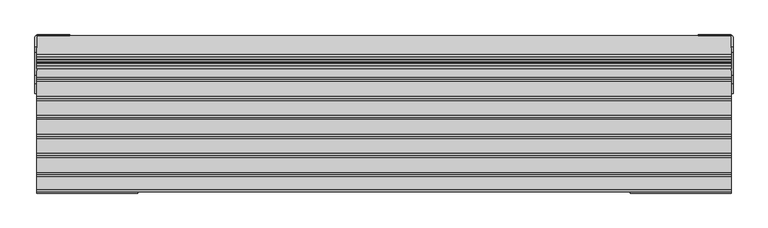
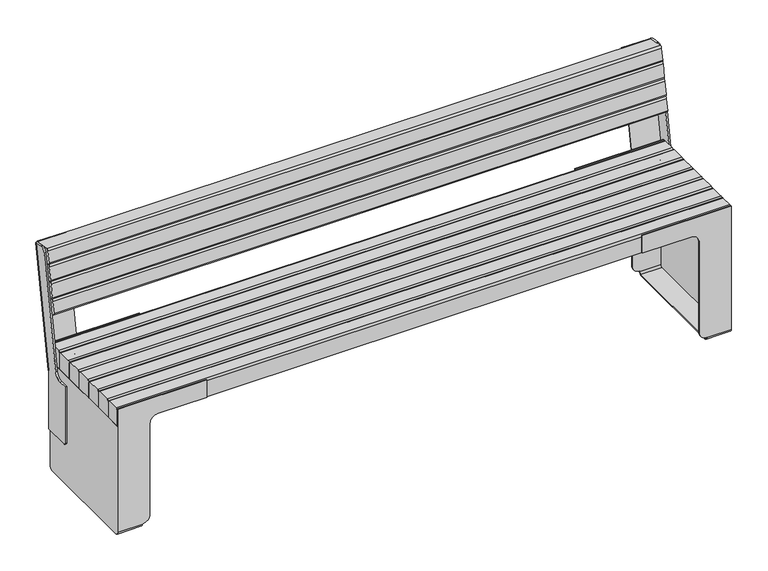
"""IFC4 building model written with IfcOpenShell, lengths in millimetres: furniture geometry, Roros Produkter - Nobel - Bench - 32685 : Roros Produkter - Nobel - Bench - 32685."""

from ifc_helpers import new_model, si_unit, point, frame, frame_2d, origin, place, context, project, spatial, polyline, circle_curve, trimmed, segment, composite_curve, outline, extrude, source, transform, mapped, element, save
from ifc_brep_helpers import plane_surface, cylinder_surface, revolved_surface, advanced_brep


def furniture_69ef98cd(model_context):
    return source(origin(), model_context, "Body", "SolidModel", [
        advanced_brep(
        [(-1000.0000075, 101.4999907, 140.0000029), (-1000.0000075, 96.4999907, 145.0000029), (-1006.0002228, 96.4999907, 145.0000029), (-1006.0002228, 101.4999907, 140.0000029), (-1000.0000075, 188.5000074, 140.0000029), (-1006.0002228, 188.5000074, 140.0000029), (-1000.0000075, 188.5000074, 340.6999889), (-1006.0002228, 188.5000074, 340.6999889), (-1000.0000075, 96.4999907, 339.4750637), (-1006.0002228, 96.4999907, 339.4750637), (-1000.0000075, 124.6585977, 339.4750637), (-1006.0002228, 124.6585977, 339.4750637), (-1000.0000075, 149.2770573, 360.1240357), (-1006.0002228, 149.2770573, 360.1240357), (-1000.0000075, 263.560543, 737.5956028), (-906.000222, 263.560543, 737.5956028), (-906.000222, 266.5149655, 737.0746583), (-998.0002228, 266.5149655, 737.0746583), (-1006.0002228, 258.6365035, 738.4638441), (-1006.0002228, 232.1946644, 743.1262551), (-1000.0000075, 232.1946644, 743.1262551), (-998.0002228, 196.3784284, 339.3107044), (-906.000222, 196.3784284, 339.3107044), (-906.000222, 193.4240059, 339.8316489), (-1000.0000075, 193.4240059, 339.8316489), (-1000.0000075, 214.8188652, 730.9647557), (-1006.0002228, 214.8188652, 730.9647557)],
        [
            (0, 1, circle_curve(frame((-1000.0000075, 101.4999907, 145.0000029), z_axis=(-1.0, 0.0, 0.0), x_axis=(0.0, -1.0, 0.0)), 5.0)),
            (1, 2),
            (2, 3, circle_curve(frame((-1006.0002228, 101.4999907, 145.0000029), z_axis=(1.0, 0.0, 0.0), x_axis=(0.0, -1.0, 0.0)), 5.0)),
            (3, 0),
            (4, 0),
            (3, 5),
            (5, 4),
            (6, 4),
            (5, 7),
            (7, 6),
            (1, 8),
            (8, 9),
            (9, 2),
            (10, 11),
            (11, 9),
            (8, 10),
            (12, 13),
            (13, 11, circle_curve(frame((-1006.0002228, 124.6585977, 364.4750637), z_axis=(-1.0, 0.0, 0.0), x_axis=(0.0, -1.0, 0.0)), 25.0)),
            (10, 12, circle_curve(frame((-1000.0000075, 124.6585977, 364.4750637), z_axis=(1.0, 0.0, 0.0), x_axis=(0.0, -1.0, 0.0)), 25.0)),
            (14, 15),
            (15, 16),
            (16, 17),
            (17, 18, circle_curve(frame((-998.0002228, 258.6365035, 738.4638441), z_axis=(0.0, 0.1736482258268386, 0.9848077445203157), x_axis=(0.0, -0.9848077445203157, 0.1736482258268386)), 8.0)),
            (18, 19),
            (19, 20),
            (20, 14),
            (7, 21, circle_curve(frame((-998.0002228, 188.4999664, 340.6998902), z_axis=(0.0, -0.1736482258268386, -0.9848077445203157), x_axis=(0.0, -0.9848077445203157, 0.1736482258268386)), 8.0)),
            (21, 22),
            (22, 23),
            (23, 24),
            (24, 6),
            (24, 14),
            (20, 25, circle_curve(frame((-1000.0000075, 229.589941, 728.3541389), z_axis=(1.0, 0.0, 0.0), x_axis=(0.0, -1.0, 0.0)), 15.0)),
            (25, 12),
            (23, 15),
            (22, 16),
            (21, 17),
            (7, 18),
            (13, 26),
            (26, 19, circle_curve(frame((-1006.0002228, 229.589941, 728.3541389), z_axis=(-1.0, 0.0, 0.0), x_axis=(0.0, -1.0, 0.0)), 15.0)),
            (25, 26),
        ],
        [
            cylinder_surface(frame((-1006.0002228, 101.4999907, 145.0000029), z_axis=(1.0, 0.0, 0.0), x_axis=(0.0, -1.0, 0.0)), 5.0),
            plane_surface(frame((-1000.0000075, 101.4999907, 140.0000029), z_axis=(0.0, 0.0, -1.0), x_axis=(-1.0, 0.0, 0.0))),
            plane_surface(frame((-1000.0000075, 188.5000074, 140.0000029), z_axis=(0.0, 1.0, 0.0), x_axis=(-1.0, 0.0, 0.0))),
            plane_surface(frame((-1000.0000075, 96.4999907, 407.4449881), z_axis=(0.0, -1.0, 0.0), x_axis=(-1.0, 0.0, 0.0))),
            plane_surface(frame((-971.8980186, 84.6585977, 339.4750637), z_axis=(0.0, 0.0, 1.0), x_axis=(-1.0, 0.0, 0.0))),
            revolved_surface(polyline([(-1000.0000075, 99.6585977, 364.4750637), (-1006.0002228, 99.6585977, 364.4750637)]), (-1053.6124158, 124.6585977, 364.4750637), (1.0, 0.0, 0.0)),
            plane_surface(frame((-1000.0000075, 263.560543, 737.5956028), z_axis=(0.0, 0.1736482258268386, 0.9848077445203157), x_axis=(0.0, 0.9848077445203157, -0.1736482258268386))),
            plane_surface(frame((-1000.0000075, 193.4240059, 339.8316489), z_axis=(0.0, -0.1736482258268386, -0.9848077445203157), x_axis=(0.0, -0.9848077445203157, 0.1736482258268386))),
            plane_surface(frame((-1000.0000075, 170.4751739, 754.0090696), z_axis=(1.0000000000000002, 0.0, 0.0), x_axis=(0.0, -0.17364822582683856, -0.9848077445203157))),
            plane_surface(frame((-1000.0000075, 263.560543, 737.5956028), z_axis=(0.0, -0.9848077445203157, 0.1736482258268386), x_axis=(0.0, -0.1736482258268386, -0.9848077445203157))),
            plane_surface(frame((-906.000222, 263.560543, 737.5956028), z_axis=(1.0000000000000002, 0.0, 0.0), x_axis=(0.0, -0.1736482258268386, -0.9848077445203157))),
            plane_surface(frame((-906.000222, 266.5149655, 737.0746583), z_axis=(0.0, 0.9848077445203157, -0.17364822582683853), x_axis=(0.0, -0.17364822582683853, -0.9848077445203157))),
            cylinder_surface(frame((-998.0002228, 188.4999664, 340.6998902), z_axis=(0.0, 0.1736482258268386, 0.9848077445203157), x_axis=(0.0, -0.9848077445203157, 0.1736482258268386)), 8.0),
            plane_surface(frame((-1006.0002228, 258.6365035, 738.4638441), z_axis=(-1.0000000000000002, 0.0, 0.0), x_axis=(0.0, -0.1736482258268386, -0.9848077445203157))),
            plane_surface(frame((-954.3666656, 213.8993, 725.7617833), z_axis=(0.0, -0.9847383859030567, 0.17404111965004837), x_axis=(-1.0, 0.0, 0.0))),
            cylinder_surface(frame((-1047.2448882, 229.589941, 728.3541389), z_axis=(-1.0, 0.0, 0.0), x_axis=(0.0, -1.0, 0.0)), 15.0),
        ],
        [
            (0, [[1, 2, 3, 4]]),
            (1, [[5, -4, 6, 7]]),
            (2, [[8, -7, 9, 10]]),
            (3, [[-2, 11, 12, 13]]),
            (4, [[14, 15, -12, 16]]),
            (5, [[17, 18, -14, 19]]),
            (6, [[20, 21, 22, 23, 24, 25, 26]]),
            (7, [[27, 28, 29, 30, 31, -10]]),
            (8, [[32, -26, 33, 34, -19, -16, -11, -1, -5, -8, -31]]),
            (9, [[-20, -32, -30, 35]]),
            (10, [[-21, -35, -29, 36]]),
            (11, [[-22, -36, -28, 37]]),
            (12, [[-23, -37, -27, 38]]),
            (13, [[-38, -9, -6, -3, -13, -15, -18, 39, 40, -24]]),
            (14, [[41, -39, -17, -34]]),
            (15, [[-41, -33, -25, -40]]),
        ],
    ),
        advanced_brep(
        [(1000.0000075, 96.4999907, 145.0000029), (1000.0000075, 101.4999907, 140.0000029), (1006.0002228, 101.4999907, 140.0000029), (1006.0002228, 96.4999907, 145.0000029), (1000.0000075, 188.5000074, 140.0000029), (1006.0002228, 188.5000074, 140.0000029), (1000.0000075, 188.5000074, 340.6999889), (1006.0002228, 188.5000074, 340.699883), (1006.0002228, 96.4999907, 339.4750637), (1000.0000075, 96.4999907, 339.4750637), (1006.0002228, 124.6585977, 339.4750637), (1000.0000075, 124.6585977, 339.4750637), (1006.0002228, 149.2770573, 360.1240357), (1000.0000075, 149.2770573, 360.1240357), (1006.0002228, 258.6365035, 738.4638441), (998.0002228, 266.5149655, 737.0746583), (906.000222, 266.5149655, 737.0746583), (906.000222, 263.560543, 737.5956028), (1000.0000075, 263.560543, 737.5956028), (1000.0000075, 232.1946644, 743.1262551), (1006.0002228, 232.1946644, 743.1262551), (1000.0000075, 193.4240059, 339.8316489), (906.000222, 193.4240059, 339.8316489), (906.000222, 196.3784284, 339.3107044), (998.0002228, 196.3784284, 339.3107044), (1000.0000075, 214.8188652, 730.9647557), (1006.0002228, 214.8188652, 730.9647557)],
        [
            (0, 1, circle_curve(frame((1000.0000075, 101.4999907, 145.0000029), z_axis=(1.0, 0.0, 0.0), x_axis=(0.0, -1.0, 0.0)), 5.0)),
            (1, 2),
            (2, 3, circle_curve(frame((1006.0002228, 101.4999907, 145.0000029), z_axis=(-1.0, 0.0, 0.0), x_axis=(0.0, -1.0, 0.0)), 5.0)),
            (3, 0),
            (1, 4),
            (4, 5),
            (5, 2),
            (4, 6),
            (6, 7),
            (7, 5),
            (3, 8),
            (8, 9),
            (9, 0),
            (10, 11),
            (11, 9),
            (8, 10),
            (10, 12, circle_curve(frame((1006.0002228, 124.6585977, 364.4750637), z_axis=(1.0, 0.0, 0.0), x_axis=(0.0, -1.0, 0.0)), 25.0)),
            (12, 13),
            (13, 11, circle_curve(frame((1000.0000075, 124.6585977, 364.4750637), z_axis=(-1.0, 0.0, 0.0), x_axis=(0.0, -1.0, 0.0)), 25.0)),
            (14, 15, circle_curve(frame((998.0002228, 258.6365035, 738.4638441), z_axis=(0.0, 0.1736482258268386, 0.9848077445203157), x_axis=(0.0, -0.9848077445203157, 0.1736482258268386)), 8.0)),
            (15, 16),
            (16, 17),
            (17, 18),
            (18, 19),
            (19, 20),
            (20, 14),
            (21, 22),
            (22, 23),
            (23, 24),
            (24, 7, circle_curve(frame((998.0002228, 188.4999664, 340.6998902), z_axis=(0.0, -0.1736482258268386, -0.9848077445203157), x_axis=(0.0, -0.9848077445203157, 0.1736482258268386)), 8.0)),
            (6, 21),
            (18, 21),
            (13, 25),
            (25, 19, circle_curve(frame((1000.0000075, 229.589941, 728.3541389), z_axis=(-1.0, 0.0, 0.0), x_axis=(0.0, -1.0, 0.0)), 15.0)),
            (17, 22),
            (16, 23),
            (15, 24),
            (14, 7),
            (20, 26, circle_curve(frame((1006.0002228, 229.589941, 728.3541389), z_axis=(1.0, 0.0, 0.0), x_axis=(0.0, -1.0, 0.0)), 15.0)),
            (26, 12),
            (26, 25),
        ],
        [
            cylinder_surface(frame((1006.0002228, 101.4999907, 145.0000029), z_axis=(-1.0, 0.0, 0.0), x_axis=(0.0, -1.0, 0.0)), 5.0),
            plane_surface(frame((1000.0000075, 188.5000074, 140.0000029), z_axis=(0.0, 0.0, -1.0), x_axis=(1.0, 0.0, 0.0))),
            plane_surface(frame((1000.0000075, 188.5000074, 340.6999889), z_axis=(0.0, 1.0, 0.0), x_axis=(1.0, 0.0, 0.0))),
            plane_surface(frame((1000.0000075, 96.4999907, 145.0000029), z_axis=(0.0, -1.0, 0.0), x_axis=(1.0, 0.0, 0.0))),
            plane_surface(frame((971.8980186, 124.6585977, 339.4750637), z_axis=(0.0, 0.0, 1.0), x_axis=(1.0, 0.0, 0.0))),
            revolved_surface(polyline([(1000.0000075, 99.6585977, 364.4750637), (1006.0002228, 99.6585977, 364.4750637)]), (1053.6124158, 124.6585977, 364.4750637), (-1.0, 0.0, 0.0)),
            plane_surface(frame((1006.0002228, 170.4751739, 754.0090696), z_axis=(0.0, 0.1736482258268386, 0.9848077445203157), x_axis=(1.0, 0.0, 0.0))),
            plane_surface(frame((1006.0002228, 100.3386368, 356.2451157), z_axis=(0.0, -0.1736482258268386, -0.9848077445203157), x_axis=(-1.0, 0.0, 0.0))),
            plane_surface(frame((1000.0000075, 263.560543, 737.5956028), z_axis=(-1.0000000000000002, 0.0, 0.0), x_axis=(0.0, -0.1736482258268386, -0.9848077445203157))),
            plane_surface(frame((906.000222, 263.560543, 737.5956028), z_axis=(0.0, -0.9848077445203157, 0.1736482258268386), x_axis=(0.0, -0.1736482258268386, -0.9848077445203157))),
            plane_surface(frame((906.000222, 266.5149655, 737.0746583), z_axis=(-1.0000000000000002, 0.0, 0.0), x_axis=(0.0, -0.17364822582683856, -0.9848077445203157))),
            plane_surface(frame((998.0002228, 266.5149655, 737.0746583), z_axis=(0.0, 0.9848077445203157, -0.17364822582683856), x_axis=(0.0, -0.17364822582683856, -0.9848077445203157))),
            cylinder_surface(frame((998.0002228, 188.4999664, 340.6998902), z_axis=(0.0, 0.1736482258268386, 0.9848077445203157), x_axis=(0.0, -0.9848077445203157, 0.1736482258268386)), 8.0),
            plane_surface(frame((1006.0002228, 170.4751739, 754.0090696), z_axis=(1.0000000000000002, 0.0, 0.0), x_axis=(0.0, -0.17364822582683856, -0.9848077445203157))),
            plane_surface(frame((954.3666656, 214.8188652, 730.9647557), z_axis=(0.0, -0.9847383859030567, 0.17404111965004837), x_axis=(1.0, 0.0, 0.0))),
            cylinder_surface(frame((1032.9051927, 229.589941, 728.3541389), z_axis=(1.0, 0.0, 0.0), x_axis=(0.0, -1.0, 0.0)), 15.0),
        ],
        [
            (0, [[1, 2, 3, 4]]),
            (1, [[5, 6, 7, -2]]),
            (2, [[8, 9, 10, -6]]),
            (3, [[-4, 11, 12, 13]]),
            (4, [[14, 15, -12, 16]]),
            (5, [[-14, 17, 18, 19]]),
            (6, [[20, 21, 22, 23, 24, 25, 26]]),
            (7, [[27, 28, 29, 30, -9, 31]]),
            (8, [[32, -31, -8, -5, -1, -13, -15, -19, 33, 34, -24]]),
            (9, [[-23, 35, -27, -32]]),
            (10, [[-22, 36, -28, -35]]),
            (11, [[-21, 37, -29, -36]]),
            (12, [[-20, 38, -30, -37]]),
            (13, [[-38, -26, 39, 40, -17, -16, -11, -3, -7, -10]]),
            (14, [[41, -33, -18, -40]]),
            (15, [[-41, -39, -25, -34]]),
        ],
    ),
        extrude(outline(composite_curve([segment(polyline([(235.7768278, 580.026369), (182.5972245, 589.4033706)]), True, "CONTINUOUS"), segment(trimmed(circle_curve(frame_2d((183.6391139, 595.312217)), 6.0), [point((182.5972245, 589.4033706))], [point((177.7302672, 596.354105))], False, "CARTESIAN"), True, "CONTINUOUS"), segment(polyline([(177.7302672, 596.354105), (185.197131, 638.7008403)]), True, "CONTINUOUS"), segment(trimmed(circle_curve(frame_2d((191.1059777, 637.6589523)), 6.0), [point((185.197131, 638.7008403))], [point((192.1478671, 643.5677988))], False, "CARTESIAN"), True, "CONTINUOUS"), segment(polyline([(192.1478671, 643.5677988), (245.3274803, 634.1907954), (235.7768278, 580.026369)]), True, "CONTINUOUS")], self_intersect=False)), frame((-1000.0000075, 0.0, 0.0), z_axis=(1.0, 0.0, 0.0), x_axis=(0.0, 1.0, 0.0)), (0.0, 0.0, 1.0), 2000.0000153),
        extrude(outline(composite_curve([segment(polyline([(254.8781328, 688.3552219), (201.6985295, 697.7322234)]), True, "CONTINUOUS"), segment(trimmed(circle_curve(frame_2d((202.7404189, 703.6410699)), 6.0), [point((201.6985295, 697.7322234))], [point((196.8315722, 704.6829579))], False, "CARTESIAN"), True, "CONTINUOUS"), segment(polyline([(196.8315722, 704.6829579), (203.4301949, 742.1056474)]), True, "CONTINUOUS"), segment(trimmed(circle_curve(frame_2d((209.3390416, 741.0637595)), 6.0), [point((203.4301949, 742.1056474))], [point((210.3809309, 746.9726059))], False, "CARTESIAN"), True, "CONTINUOUS"), segment(polyline([(210.3809309, 746.9726059), (263.560543, 737.5956028), (254.8781328, 688.3552219)]), True, "CONTINUOUS")], self_intersect=False)), frame((-1000.0000075, 0.0, 0.0), z_axis=(1.0, 0.0, 0.0), x_axis=(0.0, 1.0, 0.0)), (0.0, 0.0, 1.0), 2000.0000153),
        extrude(outline(composite_curve([segment(polyline([(227.0944176, 530.785988), (173.9148132, 540.1629898)]), True, "CONTINUOUS"), segment(trimmed(circle_curve(frame_2d((174.9567025, 546.0718363)), 6.0), [point((173.9148132, 540.1629898))], [point((169.0478558, 547.1137242))], False, "CARTESIAN"), True, "CONTINUOUS"), segment(polyline([(169.0478558, 547.1137242), (175.6464785, 584.5364138)]), True, "CONTINUOUS"), segment(trimmed(circle_curve(frame_2d((181.5553252, 583.4945259)), 6.0), [point((175.6464785, 584.5364138))], [point((182.5972146, 589.4033723))], False, "CARTESIAN"), True, "CONTINUOUS"), segment(polyline([(182.5972146, 589.4033723), (235.7768278, 580.026369), (227.0944176, 530.785988)]), True, "CONTINUOUS")], self_intersect=False)), frame((-1000.0000075, 0.0, 0.0), z_axis=(1.0, 0.0, 0.0), x_axis=(0.0, 1.0, 0.0)), (0.0, 0.0, 1.0), 2000.0000153),
        extrude(outline(composite_curve([segment(polyline([(245.3274803, 634.1907954), (192.1478308, 643.5678051)]), True, "CONTINUOUS"), segment(trimmed(circle_curve(frame_2d((193.1897202, 649.4766516)), 6.0), [point((192.1478308, 643.5678051))], [point((187.2808747, 650.5185467))], False, "CARTESIAN"), True, "CONTINUOUS"), segment(polyline([(187.2808747, 650.5185467), (194.7477895, 692.8652729)]), True, "CONTINUOUS"), segment(trimmed(circle_curve(frame_2d((200.656635, 691.8233779)), 6.0), [point((194.7477895, 692.8652729))], [point((201.6985243, 697.7322243))], False, "CARTESIAN"), True, "CONTINUOUS"), segment(polyline([(201.6985243, 697.7322243), (254.8781328, 688.3552219), (245.3274803, 634.1907954)]), True, "CONTINUOUS")], self_intersect=False)), frame((-1000.0000075, 0.0, 0.0), z_axis=(1.0, 0.0, 0.0), x_axis=(0.0, 1.0, 0.0)), (0.0, 0.0, 1.0), 2000.0000153),
        advanced_brep(
        [(920.0000032, 190.4999943, 10.0), (920.0000032, 180.4999943, 0.0), (920.0000032, -180.5000057, 0.0), (920.0000032, -190.5000057, 10.0), (920.0000032, -190.5000057, 11.2), (920.0000032, -187.5000057, 11.2), (920.0000032, -187.5000057, 9.6519473), (920.0000032, -180.5000057, 2.6519473), (920.0000032, 180.4999958, 2.6519473), (920.0000032, 187.4999958, 9.6519473), (920.0000032, 187.4999958, 11.2), (920.0000032, 190.4999943, 11.2), (920.0000032, 180.4999958, 372.0000043), (920.0000032, -180.5000057, 372.0000043), (920.0000032, -187.5000057, 365.0000043), (920.0000032, -187.4999958, 375.0000029), (920.0000032, 187.4999958, 375.0000029), (920.0000032, 187.4999958, 365.0000043), (1000.0000075, 190.5000057, 435.0000106), (1000.0000075, 187.4999958, 435.0000106), (1000.0000075, 187.4999958, 375.0000029), (1000.0000075, -187.4999958, 375.0000029), (1000.0000075, -187.4999958, 435.0000106), (1000.0000075, -190.5000057, 435.0000106), (1000.0000075, -190.5000057, 10.0), (1000.0000075, -180.5000057, 0.0), (1000.0000075, 180.4999943, 0.0), (1000.0000075, 190.4999943, 10.0), (895.000003, 190.4999943, 36.2000001), (895.000003, 190.4999943, 350.0000029), (870.000003, 190.4999943, 375.0000029), (710.0000125, 190.4999943, 375.0000029), (710.0000125, 190.4999943, 435.0000106), (710.0000125, -190.5000057, 435.0000106), (710.0000125, -190.5000057, 375.0000029), (870.000003, -190.5000057, 375.0000029), (895.000003, -190.5000057, 350.0000029), (895.000003, -190.5000057, 36.2000001), (895.000003, -187.4999958, 36.2000001), (895.000003, -187.4999958, 350.0000029), (870.000003, -187.4999958, 375.0000029), (710.0000125, -187.4999958, 375.0000029), (710.0000125, -187.4999958, 435.0000106), (895.000003, 187.4999958, 36.2000001), (895.000003, 187.4999958, 350.0000029), (870.000003, 187.4999958, 375.0000029), (710.0000125, 187.4999958, 375.0000029), (710.0000125, 187.4999958, 435.0000106), (989.0000078, 187.4999958, 365.0000043), (989.0000078, 187.4999958, 9.6519473), (989.0000078, 180.4999958, 2.6519473), (989.0000078, -180.5000057, 2.6519473), (989.0000078, -187.5000057, 9.6519473), (989.0000078, -187.5000057, 365.0000043), (989.0000078, -180.5000057, 372.0000043), (989.0000078, 180.4999958, 372.0000043)],
        [
            (0, 1, circle_curve(frame((920.0000032, 180.4999943, 10.0), z_axis=(-1.0, 0.0, 0.0), x_axis=(0.0, -1.0, 0.0)), 10.0)),
            (1, 2),
            (2, 3, circle_curve(frame((920.0000032, -180.5000057, 10.0), z_axis=(-1.0, 0.0, 0.0), x_axis=(0.0, -1.0, 0.0)), 10.0)),
            (3, 4),
            (4, 5),
            (5, 6),
            (6, 7, circle_curve(frame((920.0000032, -180.5000057, 9.6519473), z_axis=(1.0, 0.0, 0.0), x_axis=(0.0, -1.0, 0.0)), 7.0)),
            (7, 8),
            (8, 9, circle_curve(frame((920.0000032, 180.4999958, 9.6519473), z_axis=(1.0, 0.0, 0.0), x_axis=(0.0, -1.0, 0.0)), 7.0)),
            (9, 10),
            (10, 11),
            (11, 0),
            (12, 13),
            (13, 14, circle_curve(frame((920.0000032, -180.5000057, 365.0000043), z_axis=(1.0, 0.0, 0.0), x_axis=(0.0, -1.0, 0.0)), 7.0)),
            (14, 15),
            (15, 16),
            (16, 17),
            (17, 12, circle_curve(frame((920.0000032, 180.4999958, 365.0000043), z_axis=(1.0, 0.0, 0.0), x_axis=(0.0, -1.0, 0.0)), 7.0)),
            (18, 19),
            (19, 20),
            (20, 21),
            (21, 22),
            (22, 23),
            (23, 24),
            (24, 25, circle_curve(frame((1000.0000075, -180.5000057, 10.0), z_axis=(1.0, 0.0, 0.0), x_axis=(0.0, -1.0, 0.0)), 10.0)),
            (25, 26),
            (26, 27, circle_curve(frame((1000.0000075, 180.4999943, 10.0), z_axis=(1.0, 0.0, 0.0), x_axis=(0.0, -1.0, 0.0)), 10.0)),
            (27, 18),
            (27, 0),
            (11, 28, circle_curve(frame((920.0000032, 190.4999943, 36.2000001), z_axis=(0.0, 1.0, 0.0), x_axis=(-1.0, 0.0, 0.0)), 25.0000002)),
            (28, 29),
            (29, 30, circle_curve(frame((870.000003, 190.4999943, 350.0000029), z_axis=(0.0, -1.0, 0.0), x_axis=(-1.0, 0.0, 0.0)), 25.0)),
            (30, 31),
            (31, 32),
            (32, 18),
            (15, 21),
            (20, 16),
            (3, 24),
            (23, 33),
            (33, 34),
            (34, 35),
            (35, 36, circle_curve(frame((870.000003, -190.5000057, 350.0000029), z_axis=(0.0, 1.0, 0.0), x_axis=(-1.0, 0.0, 0.0)), 25.0)),
            (36, 37),
            (37, 4, circle_curve(frame((920.0000032, -190.5000057, 36.2000001), z_axis=(0.0, -1.0, 0.0), x_axis=(-1.0, 0.0, 0.0)), 25.0000002)),
            (2, 25),
            (1, 26),
            (37, 38),
            (38, 5, circle_curve(frame((920.0000032, -187.4999958, 36.2000001), z_axis=(0.0, -1.0, 0.0), x_axis=(-1.0, 0.0, 0.0)), 25.0000002)),
            (36, 39),
            (39, 38),
            (35, 40),
            (40, 39, circle_curve(frame((870.000003, -187.4999958, 350.0000029), z_axis=(0.0, 1.0, 0.0), x_axis=(-1.0, 0.0, 0.0)), 25.0)),
            (34, 41),
            (41, 40),
            (33, 42),
            (42, 41),
            (22, 42),
            (10, 43, circle_curve(frame((920.0000032, 187.4999958, 36.2000001), z_axis=(0.0, 1.0, 0.0), x_axis=(-1.0, 0.0, 0.0)), 25.0000002)),
            (43, 28),
            (43, 44),
            (44, 29),
            (44, 45, circle_curve(frame((870.000003, 187.4999958, 350.0000029), z_axis=(0.0, -1.0, 0.0), x_axis=(-1.0, 0.0, 0.0)), 25.0)),
            (45, 30),
            (45, 46),
            (46, 31),
            (46, 47),
            (47, 32),
            (47, 19),
            (48, 49),
            (49, 50, circle_curve(frame((989.0000078, 180.4999958, 9.6519473), z_axis=(-1.0, 0.0, 0.0), x_axis=(0.0, -1.0, 0.0)), 7.0)),
            (50, 51),
            (51, 52, circle_curve(frame((989.0000078, -180.5000057, 9.6519473), z_axis=(-1.0, 0.0, 0.0), x_axis=(0.0, -1.0, 0.0)), 7.0)),
            (52, 53),
            (53, 54, circle_curve(frame((989.0000078, -180.5000057, 365.0000043), z_axis=(-1.0, 0.0, 0.0), x_axis=(0.0, -1.0, 0.0)), 7.0)),
            (54, 55),
            (55, 48, circle_curve(frame((989.0000078, 180.4999958, 365.0000043), z_axis=(-1.0, 0.0, 0.0), x_axis=(0.0, -1.0, 0.0)), 7.0)),
            (54, 13),
            (12, 55),
            (52, 6),
            (14, 53),
            (50, 8),
            (7, 51),
            (48, 17),
            (9, 49),
        ],
        [
            plane_surface(frame((920.0000032, 170.4999943, 10.0), z_axis=(-1.0, 0.0, 0.0), x_axis=(0.0, 0.0, 1.0))),
            plane_surface(frame((1000.0000075, 170.4999943, 10.0), z_axis=(1.0, 0.0, 0.0), x_axis=(0.0, 0.0, -1.0))),
            plane_surface(frame((920.0000032, 190.4999943, 375.0000029), z_axis=(0.0, 1.0, 0.0), x_axis=(1.0, 0.0, 0.0))),
            plane_surface(frame((920.0000032, -190.5000057, 375.0000029), z_axis=(0.0, 0.0, 1.0), x_axis=(1.0, 0.0, 0.0))),
            plane_surface(frame((920.0000032, -190.5000057, 10.0), z_axis=(0.0, -1.0, 0.0), x_axis=(1.0, 0.0, 0.0))),
            cylinder_surface(frame((1000.0000075, -180.5000057, 10.0), z_axis=(-1.0, 0.0, 0.0), x_axis=(0.0, -1.0, 0.0)), 10.0),
            plane_surface(frame((920.0000032, 180.4999943, 0.0), z_axis=(0.0, 0.0, -1.0), x_axis=(1.0, 0.0, 0.0))),
            cylinder_surface(frame((1000.0000075, 180.4999943, 10.0), z_axis=(-1.0, 0.0, 0.0), x_axis=(0.0, -1.0, 0.0)), 10.0),
            cylinder_surface(frame((920.0000032, -187.4999958, 36.2000001), z_axis=(0.0, -1.0, 0.0), x_axis=(-1.0, 0.0, 0.0)), 25.0000002),
            plane_surface(frame((895.000003, -190.5000057, 350.0000029), z_axis=(-1.0, 0.0, 0.0), x_axis=(0.0, 1.0, 0.0))),
            revolved_surface(polyline([(845.000003, -187.4999958, 350.0000029), (845.000003, -190.5000057, 350.0000029)]), (870.000003, -187.4999958, 350.0000029), (0.0, 1.0, 0.0)),
            plane_surface(frame((710.0000125, -190.5000057, 375.0000029), z_axis=(0.0, 0.0, -1.0), x_axis=(0.0, 1.0, 0.0))),
            plane_surface(frame((710.0000125, -190.5000057, 435.0000106), z_axis=(-1.0, 0.0, 0.0), x_axis=(0.0, 1.0, 0.0))),
            plane_surface(frame((1000.0000075, -190.5000057, 435.0000106), z_axis=(0.0, 0.0, 1.0), x_axis=(0.0, 1.0, 0.0))),
            cylinder_surface(frame((920.0000032, 187.4999958, 36.2000001), z_axis=(0.0, 1.0, 0.0), x_axis=(-1.0, 0.0, 0.0)), 25.0000002),
            plane_surface(frame((895.000003, 190.5000057, 36.2000001), z_axis=(-1.0, 0.0, 0.0), x_axis=(0.0, -1.0, 0.0))),
            revolved_surface(polyline([(845.000003, 187.4999958, 350.0000029), (845.000003, 190.4999943, 350.0000029)]), (870.000003, 187.4999958, 350.0000029), (0.0, -1.0, 0.0)),
            plane_surface(frame((870.000003, 190.5000057, 375.0000029), z_axis=(0.0, 0.0, -1.0), x_axis=(0.0, -1.0, 0.0))),
            plane_surface(frame((710.0000125, 190.5000057, 375.0000029), z_axis=(-1.0, 0.0, 0.0), x_axis=(0.0, -1.0, 0.0))),
            plane_surface(frame((710.0000125, 190.5000057, 435.0000106), z_axis=(0.0, 0.0, 1.0), x_axis=(0.0, -1.0, 0.0))),
            plane_surface(frame((989.0000078, 187.4999958, 11.3137092), z_axis=(-1.0, 0.0, 0.0), x_axis=(0.0, 0.0, 1.0))),
            plane_surface(frame((870.0000119, -180.5000057, 372.0000043), z_axis=(0.0, 0.0, -1.0), x_axis=(1.0, 0.0, 0.0))),
            plane_surface(frame((870.0000119, -187.5000057, 9.6519473), z_axis=(0.0, 1.0, 0.0), x_axis=(1.0, 0.0, 0.0))),
            plane_surface(frame((870.0000119, 180.4999958, 2.6519473), z_axis=(0.0, 0.0, 1.0), x_axis=(1.0, 0.0, 0.0))),
            plane_surface(frame((870.0000119, 187.4999958, 365.0000043), z_axis=(0.0, -1.0, 0.0), x_axis=(1.0, 0.0, 0.0))),
            revolved_surface(polyline([(920.0000032, 173.4999958, 365.0000043), (989.0000078, 173.4999958, 365.0000043)]), (989.0000078, 180.4999958, 365.0000043), (-1.0, 0.0, 0.0)),
            revolved_surface(polyline([(920.0000032, -187.5000057, 365.0000043), (989.0000078, -187.5000057, 365.0000043)]), (989.0000078, -180.5000057, 365.0000043), (-1.0, 0.0, 0.0)),
            revolved_surface(polyline([(920.0000032, -187.5000057, 9.6519473), (989.0000078, -187.5000057, 9.6519473)]), (989.0000078, -180.5000057, 9.6519473), (-1.0, 0.0, 0.0)),
            revolved_surface(polyline([(920.0000032, 173.4999958, 9.6519473), (989.0000078, 173.4999958, 9.6519473)]), (989.0000078, 180.4999958, 9.6519473), (-1.0, 0.0, 0.0)),
        ],
        [
            (0, [[1, 2, 3, 4, 5, 6, 7, 8, 9, 10, 11, 12]]),
            (0, [[13, 14, 15, 16, 17, 18]]),
            (1, [[19, 20, 21, 22, 23, 24, 25, 26, 27, 28]]),
            (2, [[-28, 29, -12, 30, 31, 32, 33, 34, 35]]),
            (3, [[36, -21, 37, -16]]),
            (4, [[38, -24, 39, 40, 41, 42, 43, 44, -4]]),
            (5, [[-3, 45, -25, -38]]),
            (6, [[-2, 46, -26, -45]]),
            (7, [[-1, -29, -27, -46]]),
            (8, [[-44, 47, 48, -5]]),
            (9, [[-43, 49, 50, -47]]),
            (10, [[-42, 51, 52, -49]]),
            (11, [[-41, 53, 54, -51]]),
            (12, [[-40, 55, 56, -53]]),
            (13, [[-39, -23, 57, -55]]),
            (14, [[-30, -11, 58, 59]]),
            (15, [[-31, -59, 60, 61]]),
            (16, [[-32, -61, 62, 63]]),
            (17, [[-33, -63, 64, 65]]),
            (18, [[-34, -65, 66, 67]]),
            (19, [[-35, -67, 68, -19]]),
            (20, [[69, 70, 71, 72, 73, 74, 75, 76]]),
            (21, [[-75, 77, -13, 78]]),
            (22, [[-73, 79, -6, -48, -50, -52, -54, -56, -57, -22, -36, -15, 80]]),
            (23, [[-71, 81, -8, 82]]),
            (24, [[-69, 83, -17, -37, -20, -68, -66, -64, -62, -60, -58, -10, 84]]),
            (25, [[-76, -78, -18, -83]]),
            (26, [[-74, -80, -14, -77]]),
            (27, [[-72, -82, -7, -79]]),
            (28, [[-70, -84, -9, -81]]),
        ],
    ),
        advanced_brep(
        [(-920.0000032, -190.5000057, 10.0), (-920.0000032, -180.5000057, 0.0), (-920.0000032, 180.4999943, 0.0), (-920.0000032, 190.4999943, 10.0), (-920.0000032, 190.4999943, 11.2), (-920.0000032, 187.4999958, 11.2), (-920.0000032, 187.4999958, 9.6519473), (-920.0000032, 180.4999958, 2.6519473), (-920.0000032, -180.5000057, 2.6519473), (-920.0000032, -187.5000057, 9.6519473), (-920.0000032, -187.5000057, 11.2), (-920.0000032, -190.5000057, 11.2), (-920.0000032, -180.5000057, 372.0000043), (-920.0000032, 180.4999958, 372.0000043), (-920.0000032, 187.4999958, 365.0000043), (-920.0000032, 187.4999958, 375.0000029), (-920.0000032, -187.4999958, 375.0000029), (-920.0000032, -187.4999958, 365.0000043), (-1000.0000075, 190.4999943, 10.0), (-1000.0000075, 180.4999943, 0.0), (-1000.0000075, -180.5000057, 0.0), (-1000.0000075, -190.5000057, 10.0), (-1000.0000075, -190.5000057, 435.0000106), (-1000.0000075, -187.4999958, 435.0000106), (-1000.0000075, -187.4999958, 375.0000029), (-1000.0000075, 187.4999958, 375.0000029), (-1000.0000075, 187.4999958, 435.0000106), (-1000.0000075, 190.5000057, 435.0000106), (-710.0000125, 190.4999943, 435.0000106), (-710.0000125, 190.4999943, 375.0000029), (-870.000003, 190.4999943, 375.0000029), (-895.000003, 190.4999943, 350.0000029), (-895.000003, 190.4999943, 36.2000001), (-895.000003, -190.5000057, 36.2000001), (-895.000003, -190.5000057, 350.0000029), (-870.000003, -190.5000057, 375.0000029), (-710.0000125, -190.5000057, 375.0000029), (-710.0000125, -190.5000057, 435.0000106), (-895.000003, -187.4999958, 36.2000001), (-895.000003, -187.4999958, 350.0000029), (-870.000003, -187.4999958, 375.0000029), (-710.0000125, -187.4999958, 375.0000029), (-710.0000125, -187.4999958, 435.0000106), (-895.000003, 187.4999958, 36.2000001), (-895.000003, 187.4999958, 350.0000029), (-870.000003, 187.4999958, 375.0000029), (-710.0000125, 187.4999958, 375.0000029), (-710.0000125, 187.4999958, 435.0000106), (-989.0000078, 187.4999958, 365.0000043), (-989.0000078, 180.4999958, 372.0000043), (-989.0000078, -180.5000057, 372.0000043), (-989.0000078, -187.5000057, 365.0000043), (-989.0000078, -187.5000057, 9.6519473), (-989.0000078, -180.5000057, 2.6519473), (-989.0000078, 180.4999958, 2.6519473), (-989.0000078, 187.4999958, 9.6519473)],
        [
            (0, 1, circle_curve(frame((-920.0000032, -180.5000057, 10.0), z_axis=(1.0, 0.0, 0.0), x_axis=(0.0, -1.0, 0.0)), 10.0)),
            (1, 2),
            (2, 3, circle_curve(frame((-920.0000032, 180.4999943, 10.0), z_axis=(1.0, 0.0, 0.0), x_axis=(0.0, -1.0, 0.0)), 10.0)),
            (3, 4),
            (4, 5),
            (5, 6),
            (6, 7, circle_curve(frame((-920.0000032, 180.4999958, 9.6519473), z_axis=(-1.0, 0.0, 0.0), x_axis=(0.0, -1.0, 0.0)), 7.0)),
            (7, 8),
            (8, 9, circle_curve(frame((-920.0000032, -180.5000057, 9.6519473), z_axis=(-1.0, 0.0, 0.0), x_axis=(0.0, -1.0, 0.0)), 7.0)),
            (9, 10),
            (10, 11),
            (11, 0),
            (12, 13),
            (13, 14, circle_curve(frame((-920.0000032, 180.4999958, 365.0000043), z_axis=(-1.0, 0.0, 0.0), x_axis=(0.0, -1.0, 0.0)), 7.0)),
            (14, 15),
            (15, 16),
            (16, 17),
            (17, 12, circle_curve(frame((-920.0000032, -180.5000057, 365.0000043), z_axis=(-1.0, 0.0, 0.0), x_axis=(0.0, -1.0, 0.0)), 7.0)),
            (18, 19, circle_curve(frame((-1000.0000075, 180.4999943, 10.0), z_axis=(-1.0, 0.0, 0.0), x_axis=(0.0, -1.0, 0.0)), 10.0)),
            (19, 20),
            (20, 21, circle_curve(frame((-1000.0000075, -180.5000057, 10.0), z_axis=(-1.0, 0.0, 0.0), x_axis=(0.0, -1.0, 0.0)), 10.0)),
            (21, 22),
            (22, 23),
            (23, 24),
            (24, 25),
            (25, 26),
            (26, 27),
            (27, 18),
            (27, 28),
            (28, 29),
            (29, 30),
            (30, 31, circle_curve(frame((-870.000003, 190.4999943, 350.0000029), z_axis=(0.0, -1.0, 0.0), x_axis=(1.0, 0.0, 0.0)), 25.0)),
            (31, 32),
            (32, 4, circle_curve(frame((-920.0000032, 190.4999943, 36.2000001), z_axis=(0.0, 1.0, 0.0), x_axis=(1.0, 0.0, 0.0)), 25.0000002)),
            (3, 18),
            (24, 16),
            (15, 25),
            (21, 0),
            (11, 33, circle_curve(frame((-920.0000032, -190.5000057, 36.2000001), z_axis=(0.0, -1.0, 0.0), x_axis=(1.0, 0.0, 0.0)), 25.0000002)),
            (33, 34),
            (34, 35, circle_curve(frame((-870.000003, -190.5000057, 350.0000029), z_axis=(0.0, 1.0, 0.0), x_axis=(1.0, 0.0, 0.0)), 25.0)),
            (35, 36),
            (36, 37),
            (37, 22),
            (20, 1),
            (19, 2),
            (10, 38, circle_curve(frame((-920.0000032, -187.4999958, 36.2000001), z_axis=(0.0, -1.0, 0.0), x_axis=(1.0, 0.0, 0.0)), 25.0000002)),
            (38, 33),
            (38, 39),
            (39, 34),
            (39, 40, circle_curve(frame((-870.000003, -187.4999958, 350.0000029), z_axis=(0.0, 1.0, 0.0), x_axis=(1.0, 0.0, 0.0)), 25.0)),
            (40, 35),
            (40, 41),
            (41, 36),
            (41, 42),
            (42, 37),
            (42, 23),
            (32, 43),
            (43, 5, circle_curve(frame((-920.0000032, 187.4999958, 36.2000001), z_axis=(0.0, 1.0, 0.0), x_axis=(1.0, 0.0, 0.0)), 25.0000002)),
            (31, 44),
            (44, 43),
            (30, 45),
            (45, 44, circle_curve(frame((-870.000003, 187.4999958, 350.0000029), z_axis=(0.0, -1.0, 0.0), x_axis=(1.0, 0.0, 0.0)), 25.0)),
            (29, 46),
            (46, 45),
            (28, 47),
            (47, 46),
            (26, 47),
            (48, 49, circle_curve(frame((-989.0000078, 180.4999958, 365.0000043), z_axis=(1.0, 0.0, 0.0), x_axis=(0.0, -1.0, 0.0)), 7.0)),
            (49, 50),
            (50, 51, circle_curve(frame((-989.0000078, -180.5000057, 365.0000043), z_axis=(1.0, 0.0, 0.0), x_axis=(0.0, -1.0, 0.0)), 7.0)),
            (51, 52),
            (52, 53, circle_curve(frame((-989.0000078, -180.5000057, 9.6519473), z_axis=(1.0, 0.0, 0.0), x_axis=(0.0, -1.0, 0.0)), 7.0)),
            (53, 54),
            (54, 55, circle_curve(frame((-989.0000078, 180.4999958, 9.6519473), z_axis=(1.0, 0.0, 0.0), x_axis=(0.0, -1.0, 0.0)), 7.0)),
            (55, 48),
            (49, 13),
            (12, 50),
            (51, 17),
            (9, 52),
            (53, 8),
            (7, 54),
            (55, 6),
            (14, 48),
        ],
        [
            plane_surface(frame((-920.0000032, 190.4999943, 375.0000029), z_axis=(1.0, 0.0, 0.0), x_axis=(0.0, 0.0, 1.0))),
            plane_surface(frame((-1000.0000075, 190.4999943, 375.0000029), z_axis=(-1.0, 0.0, 0.0), x_axis=(0.0, 0.0, -1.0))),
            plane_surface(frame((-920.0000032, 190.4999943, 10.0), z_axis=(0.0, 1.0, 0.0), x_axis=(-1.0, 0.0, 0.0))),
            plane_surface(frame((-920.0000032, 190.4999943, 375.0000029), z_axis=(0.0, 0.0, 1.0), x_axis=(-1.0, 0.0, 0.0))),
            plane_surface(frame((-920.0000032, -190.5000057, 375.0000029), z_axis=(0.0, -1.0, 0.0), x_axis=(-1.0, 0.0, 0.0))),
            cylinder_surface(frame((-1000.0000075, -180.5000057, 10.0), z_axis=(1.0, 0.0, 0.0), x_axis=(0.0, -1.0, 0.0)), 10.0),
            plane_surface(frame((-920.0000032, -180.5000057, 0.0), z_axis=(0.0, 0.0, -1.0), x_axis=(-1.0, 0.0, 0.0))),
            cylinder_surface(frame((-1000.0000075, 180.4999943, 10.0), z_axis=(1.0, 0.0, 0.0), x_axis=(0.0, -1.0, 0.0)), 10.0),
            cylinder_surface(frame((-920.0000032, -187.4999958, 36.2000001), z_axis=(0.0, -1.0, 0.0), x_axis=(1.0, 0.0, 0.0)), 25.0000002),
            plane_surface(frame((-895.000003, -190.5000057, 36.2000001), z_axis=(1.0, 0.0, 0.0), x_axis=(0.0, 1.0, 0.0))),
            revolved_surface(polyline([(-845.000003, -187.4999958, 350.0000029), (-845.000003, -190.5000057, 350.0000029)]), (-870.000003, -187.4999958, 350.0000029), (0.0, 1.0, 0.0)),
            plane_surface(frame((-870.000003, -190.5000057, 375.0000029), z_axis=(0.0, 0.0, -1.0), x_axis=(0.0, 1.0, 0.0))),
            plane_surface(frame((-710.0000125, -190.5000057, 375.0000029), z_axis=(1.0, 0.0, 0.0), x_axis=(0.0, 1.0, 0.0))),
            plane_surface(frame((-710.0000125, -190.5000057, 435.0000106), z_axis=(0.0, 0.0, 1.0), x_axis=(0.0, 1.0, 0.0))),
            cylinder_surface(frame((-920.0000032, 187.4999958, 36.2000001), z_axis=(0.0, 1.0, 0.0), x_axis=(1.0, 0.0, 0.0)), 25.0000002),
            plane_surface(frame((-895.000003, 190.5000057, 350.0000029), z_axis=(1.0, 0.0, 0.0), x_axis=(0.0, -1.0, 0.0))),
            revolved_surface(polyline([(-845.000003, 187.4999958, 350.0000029), (-845.000003, 190.4999943, 350.0000029)]), (-870.000003, 187.4999958, 350.0000029), (0.0, -1.0, 0.0)),
            plane_surface(frame((-710.0000125, 190.5000057, 375.0000029), z_axis=(0.0, 0.0, -1.0), x_axis=(0.0, -1.0, 0.0))),
            plane_surface(frame((-710.0000125, 190.5000057, 435.0000106), z_axis=(1.0, 0.0, 0.0), x_axis=(0.0, -1.0, 0.0))),
            plane_surface(frame((-1000.0000075, 190.5000057, 435.0000106), z_axis=(0.0, 0.0, 1.0), x_axis=(0.0, -1.0, 0.0))),
            plane_surface(frame((-989.0000078, 173.4999958, 365.0000043), z_axis=(1.0, 0.0, 0.0), x_axis=(0.0, 0.0, 1.0))),
            plane_surface(frame((-870.0000119, 180.4999958, 372.0000043), z_axis=(0.0, 0.0, -1.0), x_axis=(-1.0, 0.0, 0.0))),
            plane_surface(frame((-870.0000119, -187.5000057, 365.0000043), z_axis=(0.0, 1.0, 0.0), x_axis=(-1.0, 0.0, 0.0))),
            plane_surface(frame((-870.0000119, -180.5000057, 2.6519473), z_axis=(0.0, 0.0, 1.0), x_axis=(-1.0, 0.0, 0.0))),
            plane_surface(frame((-870.0000119, 187.4999958, 9.6519473), z_axis=(0.0, -1.0, 0.0), x_axis=(-1.0, 0.0, 0.0))),
            revolved_surface(polyline([(-920.0000032, 173.4999958, 365.0000043), (-989.0000078, 173.4999958, 365.0000043)]), (-989.0000078, 180.4999958, 365.0000043), (1.0, 0.0, 0.0)),
            revolved_surface(polyline([(-920.0000032, -187.5000057, 365.0000043), (-989.0000078, -187.5000057, 365.0000043)]), (-989.0000078, -180.5000057, 365.0000043), (1.0, 0.0, 0.0)),
            revolved_surface(polyline([(-920.0000032, -187.5000057, 9.6519473), (-989.0000078, -187.5000057, 9.6519473)]), (-989.0000078, -180.5000057, 9.6519473), (1.0, 0.0, 0.0)),
            revolved_surface(polyline([(-920.0000032, 173.4999958, 9.6519473), (-989.0000078, 173.4999958, 9.6519473)]), (-989.0000078, 180.4999958, 9.6519473), (1.0, 0.0, 0.0)),
        ],
        [
            (0, [[1, 2, 3, 4, 5, 6, 7, 8, 9, 10, 11, 12]]),
            (0, [[13, 14, 15, 16, 17, 18]]),
            (1, [[19, 20, 21, 22, 23, 24, 25, 26, 27, 28]]),
            (2, [[-28, 29, 30, 31, 32, 33, 34, -4, 35]]),
            (3, [[36, -16, 37, -25]]),
            (4, [[38, -12, 39, 40, 41, 42, 43, 44, -22]]),
            (5, [[-1, -38, -21, 45]]),
            (6, [[-2, -45, -20, 46]]),
            (7, [[-3, -46, -19, -35]]),
            (8, [[-39, -11, 47, 48]]),
            (9, [[-40, -48, 49, 50]]),
            (10, [[-41, -50, 51, 52]]),
            (11, [[-42, -52, 53, 54]]),
            (12, [[-43, -54, 55, 56]]),
            (13, [[-44, -56, 57, -23]]),
            (14, [[-34, 58, 59, -5]]),
            (15, [[-33, 60, 61, -58]]),
            (16, [[-32, 62, 63, -60]]),
            (17, [[-31, 64, 65, -62]]),
            (18, [[-30, 66, 67, -64]]),
            (19, [[-29, -27, 68, -66]]),
            (20, [[69, 70, 71, 72, 73, 74, 75, 76]]),
            (21, [[-70, 77, -13, 78]]),
            (22, [[-72, 79, -17, -36, -24, -57, -55, -53, -51, -49, -47, -10, 80]]),
            (23, [[-74, 81, -8, 82]]),
            (24, [[-76, 83, -6, -59, -61, -63, -65, -67, -68, -26, -37, -15, 84]]),
            (25, [[-69, -84, -14, -77]]),
            (26, [[-71, -78, -18, -79]]),
            (27, [[-73, -80, -9, -81]]),
            (28, [[-75, -82, -7, -83]]),
        ],
    ),
        extrude(outline(composite_curve([segment(trimmed(circle_curve(frame_2d((88.4999913, 429.0000106)), 6.0), [point((82.4999913, 429.0000106))], [point((88.4999913, 435.0000106))], False, "CARTESIAN"), True, "CONTINUOUS"), segment(polyline([(88.4999913, 435.0000106), (131.4849653, 435.0000106)]), True, "CONTINUOUS"), segment(trimmed(circle_curve(frame_2d((131.4849653, 428.9849806)), 6.01503), [point((131.4849653, 435.0000106))], [point((137.4999954, 428.9849806))], False, "CARTESIAN"), True, "CONTINUOUS"), segment(polyline([(137.4999954, 428.9849806), (137.4999954, 375.0000029), (82.4999913, 375.0000029), (82.4999913, 429.0000106)]), True, "CONTINUOUS")], self_intersect=False)), frame((-1000.0000075, 0.0, 0.0), z_axis=(1.0, 0.0, 0.0), x_axis=(0.0, 1.0, 0.0)), (0.0, 0.0, 1.0), 2000.0000153),
        extrude(outline(composite_curve([segment(trimmed(circle_curve(frame_2d((-21.4999963, 429.0000106)), 6.0), [point((-27.4999963, 429.0000106))], [point((-21.4999963, 435.0000106))], False, "CARTESIAN"), True, "CONTINUOUS"), segment(polyline([(-21.4999963, 435.0000106), (21.4849663, 435.0000106)]), True, "CONTINUOUS"), segment(trimmed(circle_curve(frame_2d((21.4849663, 428.9849806)), 6.01503), [point((21.4849663, 435.0000106))], [point((27.4999963, 428.9849806))], False, "CARTESIAN"), True, "CONTINUOUS"), segment(polyline([(27.4999963, 428.9849806), (27.4999963, 375.0000029), (-27.4999963, 375.0000029), (-27.4999963, 429.0000106)]), True, "CONTINUOUS")], self_intersect=False)), frame((-1000.0000075, 0.0, 0.0), z_axis=(1.0, 0.0, 0.0), x_axis=(0.0, 1.0, 0.0)), (0.0, 0.0, 1.0), 2000.0000153),
        extrude(outline(composite_curve([segment(trimmed(circle_curve(frame_2d((-131.4999954, 429.0000106)), 6.0), [point((-137.4999954, 429.0000106))], [point((-131.4999954, 435.0000106))], False, "CARTESIAN"), True, "CONTINUOUS"), segment(polyline([(-131.4999954, 435.0000106), (-88.5150214, 435.0000106)]), True, "CONTINUOUS"), segment(trimmed(circle_curve(frame_2d((-88.5150214, 428.9849806)), 6.01503), [point((-88.5150214, 435.0000106))], [point((-82.4999913, 428.9849806))], False, "CARTESIAN"), True, "CONTINUOUS"), segment(polyline([(-82.4999913, 428.9849806), (-82.4999913, 375.0000029), (-137.4999954, 375.0000029), (-137.4999954, 429.0000106)]), True, "CONTINUOUS")], self_intersect=False)), frame((-1000.0000075, 0.0, 0.0), z_axis=(1.0, 0.0, 0.0), x_axis=(0.0, 1.0, 0.0)), (0.0, 0.0, 1.0), 2000.0000153),
        extrude(outline(composite_curve([segment(trimmed(circle_curve(frame_2d((143.4999954, 429.0000106)), 6.0), [point((137.4999954, 429.0000106))], [point((143.4999954, 435.0000106))], False, "CARTESIAN"), True, "CONTINUOUS"), segment(polyline([(143.4999954, 435.0000106), (181.4849657, 435.0000106)]), True, "CONTINUOUS"), segment(trimmed(circle_curve(frame_2d((181.4849657, 428.9849806)), 6.01503), [point((181.4849657, 435.0000106))], [point((187.4999958, 428.9849806))], False, "CARTESIAN"), True, "CONTINUOUS"), segment(polyline([(187.4999958, 428.9849806), (187.4999958, 375.0000029), (137.4999954, 375.0000029), (137.4999954, 429.0000106)]), True, "CONTINUOUS")], self_intersect=False)), frame((-1000.0000075, 0.0, 0.0), z_axis=(1.0, 0.0, 0.0), x_axis=(0.0, 1.0, 0.0)), (0.0, 0.0, 1.0), 2000.0000153),
        extrude(outline(composite_curve([segment(trimmed(circle_curve(frame_2d((76.4999913, 429.0000106)), 6.0), [point((76.4999913, 435.0000106))], [point((82.4999913, 429.0000106))], False, "CARTESIAN"), True, "CONTINUOUS"), segment(polyline([(82.4999913, 429.0000106), (82.4999913, 375.0000029), (27.4999963, 375.0000029), (27.4999963, 429.0000106)]), True, "CONTINUOUS"), segment(trimmed(circle_curve(frame_2d((33.4999963, 429.0000106)), 6.0), [point((27.4999963, 429.0000106))], [point((33.4999963, 435.0000106))], False, "CARTESIAN"), True, "CONTINUOUS"), segment(polyline([(33.4999963, 435.0000106), (76.4999913, 435.0000106)]), True, "CONTINUOUS")], self_intersect=False)), frame((-1000.0000075, 0.0, 0.0), z_axis=(1.0, 0.0, 0.0), x_axis=(0.0, 1.0, 0.0)), (0.0, 0.0, 1.0), 2000.0000153),
        extrude(outline(composite_curve([segment(polyline([(-27.4999963, 429.0000106), (-27.4999963, 375.0000029), (-82.4999913, 375.0000029), (-82.4999913, 429.0000106)]), True, "CONTINUOUS"), segment(trimmed(circle_curve(frame_2d((-76.4999913, 429.0000106)), 6.0), [point((-82.4999913, 429.0000106))], [point((-76.4999913, 435.0000106))], False, "CARTESIAN"), True, "CONTINUOUS"), segment(polyline([(-76.4999913, 435.0000106), (-33.4999963, 435.0000106)]), True, "CONTINUOUS"), segment(trimmed(circle_curve(frame_2d((-33.4999963, 429.0000106)), 6.0), [point((-33.4999963, 435.0000106))], [point((-27.4999963, 429.0000106))], False, "CARTESIAN"), True, "CONTINUOUS")], self_intersect=False)), frame((-1000.0000075, 0.0, 0.0), z_axis=(1.0, 0.0, 0.0), x_axis=(0.0, 1.0, 0.0)), (0.0, 0.0, 1.0), 2000.0000153),
        extrude(outline(composite_curve([segment(polyline([(-137.4999954, 429.0000106), (-137.4999954, 375.0000029), (-187.4999958, 375.0000029), (-187.4999958, 429.0000106)]), True, "CONTINUOUS"), segment(trimmed(circle_curve(frame_2d((-181.4999958, 429.0000106)), 6.0), [point((-187.4999958, 429.0000106))], [point((-181.4999958, 435.0000106))], False, "CARTESIAN"), True, "CONTINUOUS"), segment(polyline([(-181.4999958, 435.0000106), (-143.4999954, 435.0000106)]), True, "CONTINUOUS"), segment(trimmed(circle_curve(frame_2d((-143.4999954, 429.0000106)), 6.0), [point((-143.4999954, 435.0000106))], [point((-137.4999954, 429.0000106))], False, "CARTESIAN"), True, "CONTINUOUS")], self_intersect=False)), frame((-1000.0000075, 0.0, 0.0), z_axis=(1.0, 0.0, 0.0), x_axis=(0.0, 1.0, 0.0)), (0.0, 0.0, 1.0), 2000.0000153),
    ])


if __name__ == "__main__":
    model = new_model("IFC4")
    model_context = context("Model", 3, world=origin())
    ifc_project = project(units=[si_unit("LENGTHUNIT", "METRE", prefix="MILLI")], contexts=[model_context])
    site = spatial("IfcSite", under=ifc_project)
    building = spatial("IfcBuilding", under=site)
    placement = place(None, origin())
    furniture_shape = furniture_69ef98cd(model_context)
    element("IfcFurniture", 1, ObjectType="Roros Produkter - Nobel - Bench - 32685 : Roros Produkter - Nobel - Bench - 32685", at=placement, inside=building, context=model_context, shape_type="MappedRepresentation", body=[
        mapped(furniture_shape, transform((0.0, 0.0, 0.0), x_axis=(1.0, 0.0, 0.0), y_axis=(0.0, 1.0, 0.0), z_axis=(0.0, 0.0, 1.0))),
    ])
    save(model, "model.ifc")
